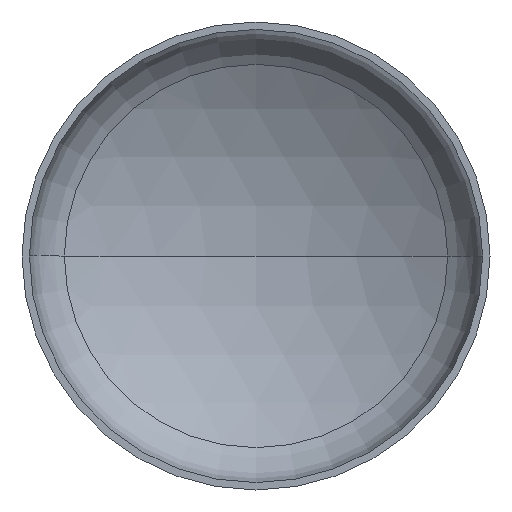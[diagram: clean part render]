
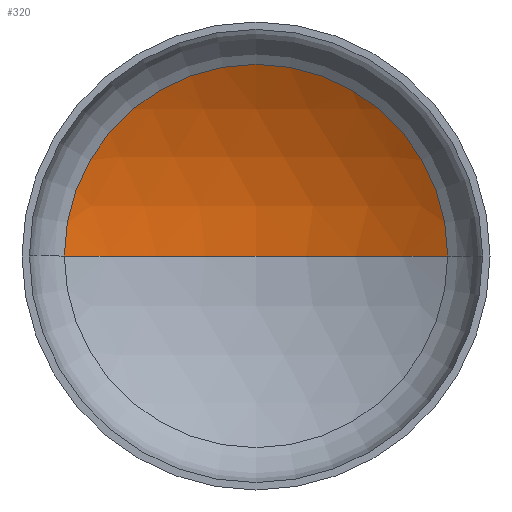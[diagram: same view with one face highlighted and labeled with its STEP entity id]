
A CAD part, front view. The second image highlights one B-rep face of the part: STEP entity #320.
In plain terms, the highlighted spherical face has radius 1360 mm.
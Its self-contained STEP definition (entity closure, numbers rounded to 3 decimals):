
#11 = AXIS2_PLACEMENT_3D ( 'NONE', #368, #216, #396 ) ;
#18 = AXIS2_PLACEMENT_3D ( 'NONE', #382, #98, #78 ) ;
#35 = AXIS2_PLACEMENT_3D ( 'NONE', #249, #248, #247 ) ;
#40 = AXIS2_PLACEMENT_3D ( 'NONE', #174, #176, #220 ) ;
#78 = DIRECTION ( 'NONE',  ( -1., 0., 0. ) ) ;
#85 = VERTEX_POINT ( 'NONE', #304 ) ;
#98 = DIRECTION ( 'NONE',  ( 0., 0., -1. ) ) ;
#118 = CARTESIAN_POINT ( 'NONE',  ( -696.073, 308.364, 0. ) ) ;
#147 = CARTESIAN_POINT ( 'NONE',  ( 696.073, 308.364, 0. ) ) ;
#149 = ORIENTED_EDGE ( 'NONE', *, *, #350, .F. ) ;
#165 = EDGE_CURVE ( 'NONE', #392, #274, #397, .T. ) ;
#174 = CARTESIAN_POINT ( 'NONE',  ( 0., 308.364, 0. ) ) ;
#176 = DIRECTION ( 'NONE',  ( 0., -1., 0. ) ) ;
#183 = EDGE_CURVE ( 'NONE', #85, #392, #254, .T. ) ;
#216 = DIRECTION ( 'NONE',  ( 0., 0., 1. ) ) ;
#220 = DIRECTION ( 'NONE',  ( 1., 0., 0. ) ) ;
#230 = FACE_OUTER_BOUND ( 'NONE', #316, .T. ) ;
#247 = DIRECTION ( 'NONE',  ( -1., 0., 0. ) ) ;
#248 = DIRECTION ( 'NONE',  ( 0., 0., -1. ) ) ;
#249 = CARTESIAN_POINT ( 'NONE',  ( 0., -860.003, 0. ) ) ;
#251 = ORIENTED_EDGE ( 'NONE', *, *, #183, .T. ) ;
#254 = CIRCLE ( 'NONE', #35, 1360. ) ;
#274 = VERTEX_POINT ( 'NONE', #118 ) ;
#302 = SPHERICAL_SURFACE ( 'NONE', #18, 1360. ) ;
#304 = CARTESIAN_POINT ( 'NONE',  ( 0., 499.997, 0. ) ) ;
#316 = EDGE_LOOP ( 'NONE', ( #149, #251, #405 ) ) ;
#320 = ADVANCED_FACE ( 'NONE', ( #230 ), #302, .F. ) ;
#350 = EDGE_CURVE ( 'NONE', #85, #274, #362, .T. ) ;
#362 = CIRCLE ( 'NONE', #11, 1360. ) ;
#368 = CARTESIAN_POINT ( 'NONE',  ( 0., -860.003, 0. ) ) ;
#382 = CARTESIAN_POINT ( 'NONE',  ( 0., -860.003, 0. ) ) ;
#392 = VERTEX_POINT ( 'NONE', #147 ) ;
#396 = DIRECTION ( 'NONE',  ( 1., 0., 0. ) ) ;
#397 = CIRCLE ( 'NONE', #40, 696.073 ) ;
#405 = ORIENTED_EDGE ( 'NONE', *, *, #165, .T. ) ;
